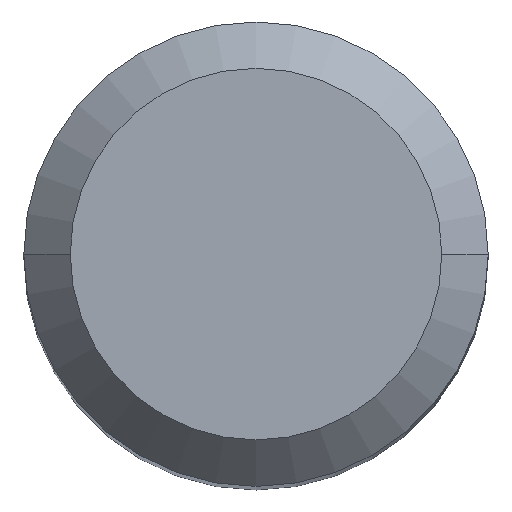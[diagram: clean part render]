
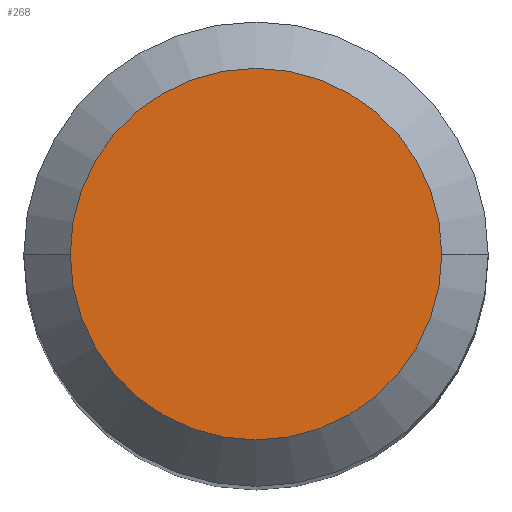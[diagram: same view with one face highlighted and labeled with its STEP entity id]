
A CAD part, top view. The second image highlights one B-rep face of the part: STEP entity #268.
In plain terms, the highlighted planar face has unit normal (0, 0, 1).
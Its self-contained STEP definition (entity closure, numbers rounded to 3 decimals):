
#58 = CARTESIAN_POINT ( 'NONE',  ( 3.2, 0., 0. ) ) ;
#61 = VERTEX_POINT ( 'NONE', #309 ) ;
#69 = VERTEX_POINT ( 'NONE', #58 ) ;
#78 = EDGE_CURVE ( 'NONE', #61, #69, #89, .T. ) ;
#84 = FACE_OUTER_BOUND ( 'NONE', #451, .T. ) ;
#89 = CIRCLE ( 'NONE', #469, 3.2 ) ;
#192 = ORIENTED_EDGE ( 'NONE', *, *, #78, .F. ) ;
#197 = AXIS2_PLACEMENT_3D ( 'NONE', #233, #263, #411 ) ;
#223 = ORIENTED_EDGE ( 'NONE', *, *, #439, .F. ) ;
#233 = CARTESIAN_POINT ( 'NONE',  ( 0., 0., 0. ) ) ;
#263 = DIRECTION ( 'NONE',  ( 0., 0., -1. ) ) ;
#268 = ADVANCED_FACE ( 'NONE', ( #84 ), #492, .T. ) ;
#282 = DIRECTION ( 'NONE',  ( 0., 0., -1. ) ) ;
#309 = CARTESIAN_POINT ( 'NONE',  ( -3.2, 0., 0. ) ) ;
#334 = CIRCLE ( 'NONE', #197, 3.2 ) ;
#345 = DIRECTION ( 'NONE',  ( -1., 0., 0. ) ) ;
#348 = DIRECTION ( 'NONE',  ( 1., 0., 0. ) ) ;
#381 = CARTESIAN_POINT ( 'NONE',  ( 0., 3.2, 0. ) ) ;
#383 = DIRECTION ( 'NONE',  ( 0., 0., 1. ) ) ;
#403 = AXIS2_PLACEMENT_3D ( 'NONE', #381, #383, #348 ) ;
#411 = DIRECTION ( 'NONE',  ( -1., 0., 0. ) ) ;
#424 = CARTESIAN_POINT ( 'NONE',  ( 0., 0., 0. ) ) ;
#439 = EDGE_CURVE ( 'NONE', #69, #61, #334, .T. ) ;
#451 = EDGE_LOOP ( 'NONE', ( #192, #223 ) ) ;
#469 = AXIS2_PLACEMENT_3D ( 'NONE', #424, #282, #345 ) ;
#492 = PLANE ( 'NONE',  #403 ) ;
